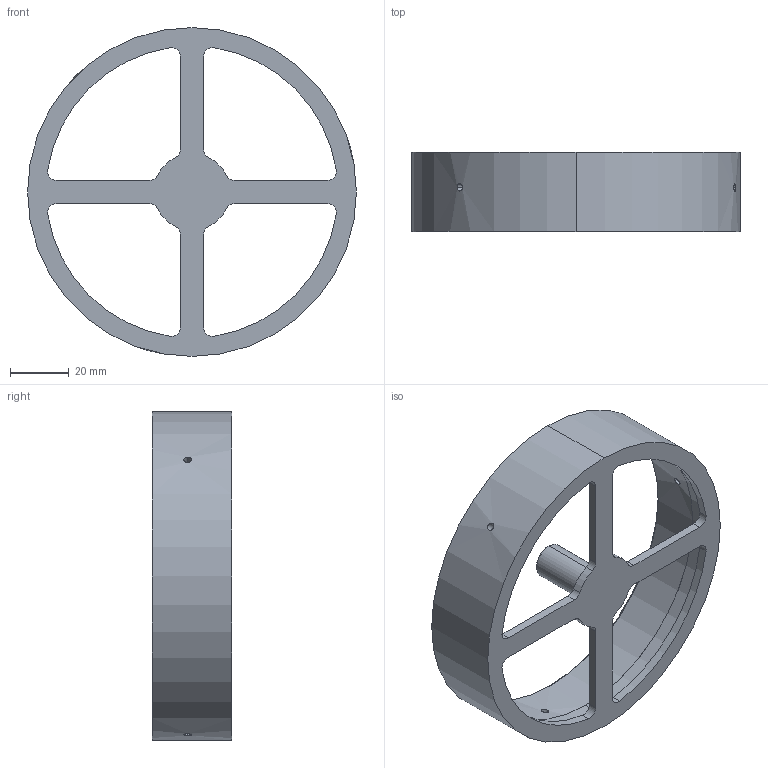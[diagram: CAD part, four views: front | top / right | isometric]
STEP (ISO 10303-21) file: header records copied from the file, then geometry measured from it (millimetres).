
FILE_DESCRIPTION (( 'STEP AP203' ), '1' );
FILE_NAME ('RI100樓齊嫌聆彸.STEP', '2024-07-03T11:23:28', ( '' ), ( '' ), 'SwSTEP 2.0', 'SolidWorks 2022', '' );
FILE_SCHEMA (( 'CONFIG_CONTROL_DESIGN' ));
Length unit declared in the file: millimetre
Products named in the file (1): RI100加霍尔测试
Bounding box: 112 x 27 x 112 mm (x, y, z)
Volume: 46572.3 mm3; surface area: 27719.1 mm2
Topology: 1 solids, 1 shells, 71 faces, 187 edges, 119 vertices
Faces by surface type: cylinder 48, plane 14, cone 9
Entity records: 2497 total; most frequent: CARTESIAN_POINT 610, DIRECTION 398, ORIENTED_EDGE 362, EDGE_CURVE 181, AXIS2_PLACEMENT_3D 159, VERTEX_POINT 119, EDGE_LOOP 92, CIRCLE 87
